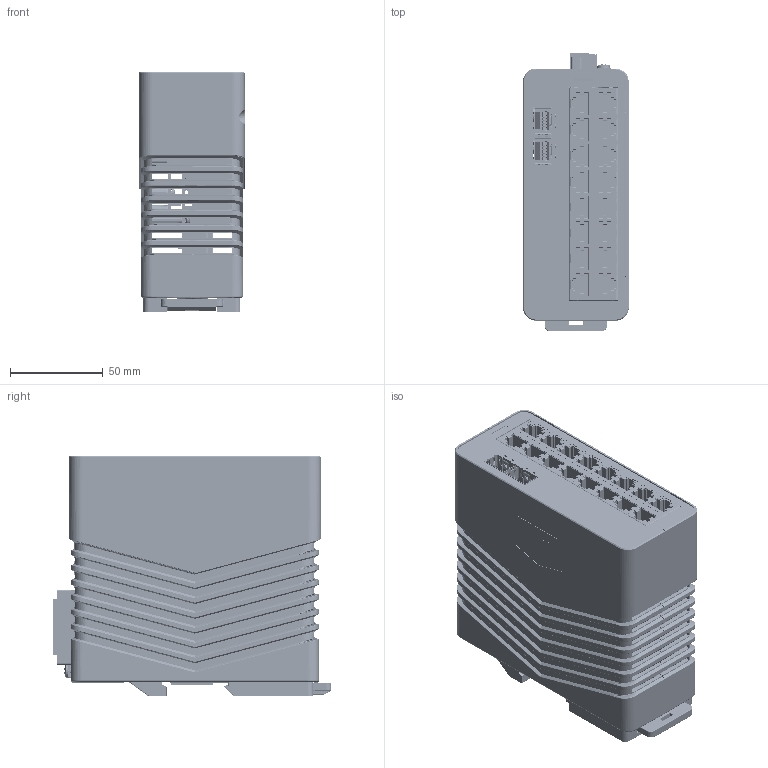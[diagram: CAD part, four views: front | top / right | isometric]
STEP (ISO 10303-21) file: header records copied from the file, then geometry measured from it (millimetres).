
FILE_DESCRIPTION (( 'STEP AP214' ), '1' );
FILE_NAME ('NT5018-DM2.STEP', '2023-01-25T14:24:25', ( '' ), ( '' ), 'SwSTEP 2.0', 'SolidWorks 2022', '' );
FILE_SCHEMA (( 'AUTOMOTIVE_DESIGN' ));
Length unit declared in the file: millimetre
Products named in the file (23): NT5018-DM2; NPTP0061; 11631_ cutouts concept wide; 11618; label bulkhead; Jubilee DB_SFP_01; 11860; 11631; 96439A130_18-8 SS PRESS-FIT NUT FOR SHEET METAL_96439A130; 10778; HWSMCZ08_95345A426; NHF00001; 11620; 11619; 11821; 11820_95345A444; LOGO Sticker; 11836; 11622_Wide; 11635-01_Jubilee_18port_sp02; Front Overlays_cutouts 16RJs and SFP; 11703_11703; 10670
Assembly tree (42 placements, depth 3):
  NT5018-DM2
    11619
    11620
    11622_Wide
    11618
    11703_11703
    11631
      11631_ cutouts concept wide
      96439A130_18-8 SS PRESS-FIT NUT FOR SHEET METAL_96439A130  x2
    HWSMCZ08_95345A426  x14
    11820_95345A444  x4
    11836  x2
    11821
    10778
    Front Overlays_cutouts 16RJs and SFP
    label bulkhead
    LOGO Sticker
    Jubilee DB_SFP_01
    11635-01_Jubilee_18port_sp02
    10670
    NPTP0061
    NHF00001  x2
    11860  x2
Bounding box: 57.23 x 150.55 x 129.79 mm (x, y, z)
Volume: 265152.9 mm3; surface area: 283121.4 mm2
Topology: 109 solids, 133 shells, 21465 faces, 58314 edges, 37620 vertices
Faces by surface type: plane 13631, cylinder 4780, bspline 2097, cone 468, torus 357, sphere 132
Entity records: 775626 total; most frequent: CARTESIAN_POINT 191277, ORIENTED_EDGE 98731, DIRECTION 86818, EDGE_CURVE 49388, VECTOR 37748, LINE 37748, VERTEX_POINT 32034, AXIS2_PLACEMENT_3D 24535
